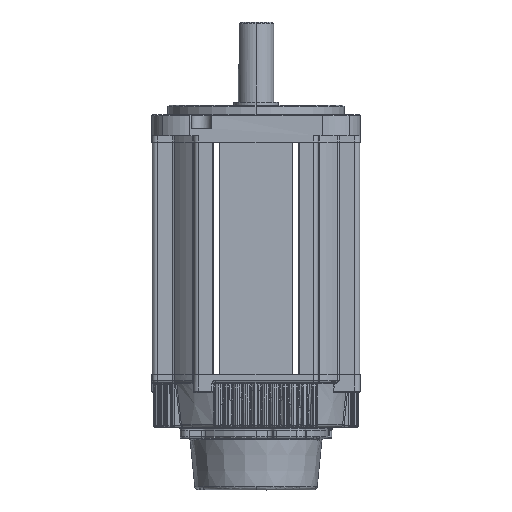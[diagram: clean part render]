
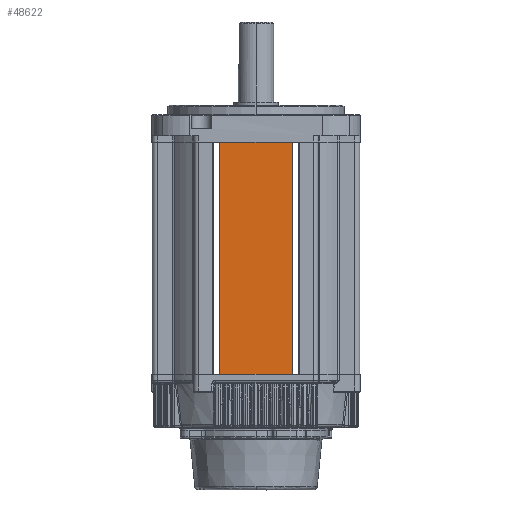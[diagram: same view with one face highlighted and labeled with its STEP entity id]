
A CAD part, top view. The second image highlights one B-rep face of the part: STEP entity #48622.
In plain terms, the highlighted planar face has unit normal (0, 0, 1).
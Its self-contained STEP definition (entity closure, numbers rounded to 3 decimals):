
#233 = PLANE ( 'NONE',  #66550 ) ;
#1040 = DIRECTION ( 'NONE',  ( 0., -1., 0. ) ) ;
#4380 = VECTOR ( 'NONE', #21210, 1000. ) ;
#9448 = VERTEX_POINT ( 'NONE', #63277 ) ;
#17313 = ORIENTED_EDGE ( 'NONE', *, *, #87033, .T. ) ;
#17563 = LINE ( 'NONE', #41218, #4380 ) ;
#18051 = LINE ( 'NONE', #27340, #32308 ) ;
#21210 = DIRECTION ( 'NONE',  ( 1., 0., 0. ) ) ;
#22026 = VECTOR ( 'NONE', #72683, 1000. ) ;
#22174 = VERTEX_POINT ( 'NONE', #69652 ) ;
#22528 = VECTOR ( 'NONE', #1040, 1000. ) ;
#25859 = ORIENTED_EDGE ( 'NONE', *, *, #73444, .T. ) ;
#27340 = CARTESIAN_POINT ( 'NONE',  ( 12.036, 4., 94.706 ) ) ;
#30259 = CARTESIAN_POINT ( 'NONE',  ( -32.964, 4., 94.706 ) ) ;
#32308 = VECTOR ( 'NONE', #75912, 1000. ) ;
#34603 = DIRECTION ( 'NONE',  ( 0., 0., 1. ) ) ;
#37683 = CARTESIAN_POINT ( 'NONE',  ( 12.036, 4., 94.706 ) ) ;
#38346 = ORIENTED_EDGE ( 'NONE', *, *, #85827, .T. ) ;
#39624 = VERTEX_POINT ( 'NONE', #37683 ) ;
#41218 = CARTESIAN_POINT ( 'NONE',  ( 12.036, -141., 94.706 ) ) ;
#42861 = VERTEX_POINT ( 'NONE', #30259 ) ;
#47448 = EDGE_CURVE ( 'NONE', #22174, #9448, #17563, .T. ) ;
#48622 = ADVANCED_FACE ( 'NONE', ( #90020 ), #233, .T. ) ;
#58221 = ORIENTED_EDGE ( 'NONE', *, *, #47448, .T. ) ;
#59411 = LINE ( 'NONE', #65648, #22026 ) ;
#63070 = CARTESIAN_POINT ( 'NONE',  ( -32.964, 4., 94.706 ) ) ;
#63277 = CARTESIAN_POINT ( 'NONE',  ( 12.036, -141., 94.706 ) ) ;
#63487 = CARTESIAN_POINT ( 'NONE',  ( 12.036, 4., 94.706 ) ) ;
#65648 = CARTESIAN_POINT ( 'NONE',  ( 12.036, 4., 94.706 ) ) ;
#66550 = AXIS2_PLACEMENT_3D ( 'NONE', #63487, #34603, #76724 ) ;
#69652 = CARTESIAN_POINT ( 'NONE',  ( -32.964, -141., 94.706 ) ) ;
#72683 = DIRECTION ( 'NONE',  ( -1., 0., 0. ) ) ;
#73444 = EDGE_CURVE ( 'NONE', #39624, #42861, #59411, .T. ) ;
#75126 = EDGE_LOOP ( 'NONE', ( #25859, #38346, #58221, #17313 ) ) ;
#75373 = LINE ( 'NONE', #63070, #22528 ) ;
#75912 = DIRECTION ( 'NONE',  ( 0., 1., 0. ) ) ;
#76724 = DIRECTION ( 'NONE',  ( 1., 0., 0. ) ) ;
#85827 = EDGE_CURVE ( 'NONE', #42861, #22174, #75373, .T. ) ;
#87033 = EDGE_CURVE ( 'NONE', #9448, #39624, #18051, .T. ) ;
#90020 = FACE_OUTER_BOUND ( 'NONE', #75126, .T. ) ;
